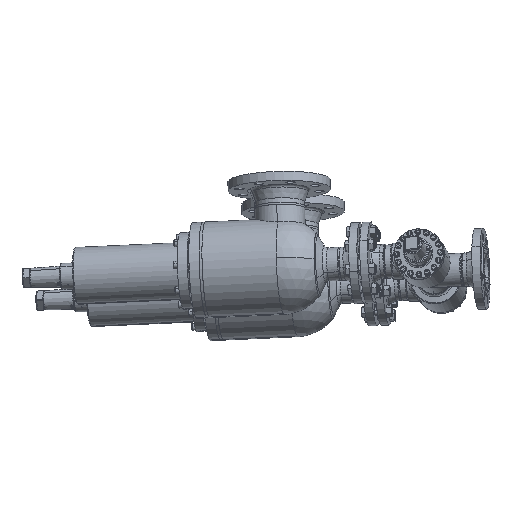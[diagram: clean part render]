
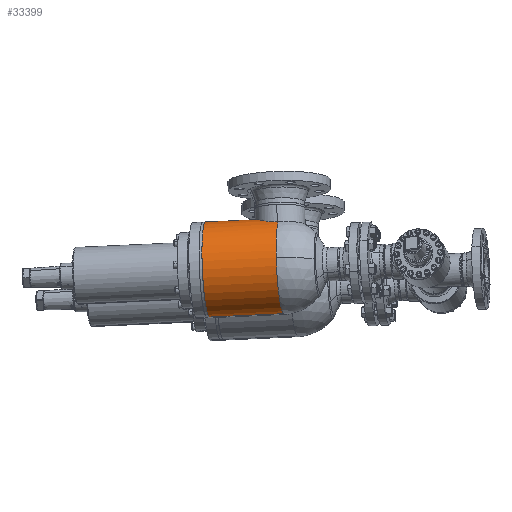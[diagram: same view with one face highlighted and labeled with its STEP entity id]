
A CAD part, top view. The second image highlights one B-rep face of the part: STEP entity #33399.
In plain terms, the highlighted cylindrical face has radius 109.55 mm (diameter 219.1 mm), a partial arc.
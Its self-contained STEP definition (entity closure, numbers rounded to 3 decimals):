
#33399 = ADVANCED_FACE ( 'NONE', ( #20507 ), #20508, .T. ) ;
#50564 = VERTEX_POINT ( 'NONE', #4089 ) ;
#51237 = EDGE_CURVE ( 'NONE', #50564, #53919, #4771, .T. ) ;
#51618 = CARTESIAN_POINT ( 'NONE',  ( 0., -201., 109.55 ) ) ;
#4089 = CARTESIAN_POINT ( 'NONE',  ( 53.963, -201., -95.337 ) ) ;
#20507 = FACE_OUTER_BOUND ( 'NONE', #32668, .T. ) ;
#20508 = CYLINDRICAL_SURFACE ( 'NONE', #20509, 109.55 ) ;
#20509 = AXIS2_PLACEMENT_3D ( 'NONE', #20510, #20511, #20512 ) ;
#20510 = CARTESIAN_POINT ( 'NONE',  ( 0., 0., 0. ) ) ;
#20511 = DIRECTION ( 'NONE',  ( 0., 1., 0. ) ) ;
#20512 = DIRECTION ( 'NONE',  ( 0., 0., 1. ) ) ;
#21102 = VERTEX_POINT ( 'NONE', #7632 ) ;
#53919 = VERTEX_POINT ( 'NONE', #11273 ) ;
#4771 = B_SPLINE_CURVE_WITH_KNOTS ( 'NONE', 3,
 ( #4772, #4773, #4774, #4775, #4776 ),
 .UNSPECIFIED., .F., .F.,
 ( 4, 1, 4 ),
 ( 0.255, 0.256, 0.257 ),
 .UNSPECIFIED. ) ;
#4772 = CARTESIAN_POINT ( 'NONE',  ( 53.963, -201., -95.337 ) ) ;
#4773 = CARTESIAN_POINT ( 'NONE',  ( 53.975, -200.667, -95.33 ) ) ;
#4774 = CARTESIAN_POINT ( 'NONE',  ( 53.994, -200., -95.32 ) ) ;
#4775 = CARTESIAN_POINT ( 'NONE',  ( 54., -199.333, -95.316 ) ) ;
#4776 = CARTESIAN_POINT ( 'NONE',  ( 54., -199., -95.316 ) ) ;
#54244 = LINE ( 'NONE', #54245, #54246 ) ;
#54245 = CARTESIAN_POINT ( 'NONE',  ( 0., 0., 109.55 ) ) ;
#54246 = VECTOR ( 'NONE', #54247, 1000. ) ;
#54247 = DIRECTION ( 'NONE',  ( 0., 1., 0. ) ) ;
#21769 = EDGE_CURVE ( 'NONE', #21102, #23983, #9167, .T. ) ;
#22114 = CARTESIAN_POINT ( 'NONE',  ( 0., -30.125, -109.55 ) ) ;
#22851 = ORIENTED_EDGE ( 'NONE', *, *, #21769, .F. ) ;
#23349 = LINE ( 'NONE', #23350, #23351 ) ;
#23350 = CARTESIAN_POINT ( 'NONE',  ( 0., 0., -109.55 ) ) ;
#23351 = VECTOR ( 'NONE', #23352, 1000. ) ;
#23352 = DIRECTION ( 'NONE',  ( 0., 1., 0. ) ) ;
#23983 = VERTEX_POINT ( 'NONE', #22114 ) ;
#7632 = CARTESIAN_POINT ( 'NONE',  ( 0., -30.125, 109.55 ) ) ;
#24568 = EDGE_CURVE ( 'NONE', #27251, #23983, #23349, .T. ) ;
#41511 = ORIENTED_EDGE ( 'NONE', *, *, #9989, .T. ) ;
#9167 = CIRCLE ( 'NONE', #9168, 109.55 ) ;
#9168 = AXIS2_PLACEMENT_3D ( 'NONE', #9169, #9170, #9171 ) ;
#9169 = CARTESIAN_POINT ( 'NONE',  ( 0., -30.125, 0. ) ) ;
#9170 = DIRECTION ( 'NONE',  ( 0., 1., 0. ) ) ;
#9171 = DIRECTION ( 'NONE',  ( 0., 0., 1. ) ) ;
#25687 = ORIENTED_EDGE ( 'NONE', *, *, #24568, .T. ) ;
#9319 = VERTEX_POINT ( 'NONE', #44709 ) ;
#9989 = EDGE_CURVE ( 'NONE', #9319, #50564, #46161, .T. ) ;
#43086 = EDGE_CURVE ( 'NONE', #45753, #9319, #46752, .T. ) ;
#27251 = VERTEX_POINT ( 'NONE', #27898 ) ;
#11273 = CARTESIAN_POINT ( 'NONE',  ( 54., -199., -95.316 ) ) ;
#44192 = ORIENTED_EDGE ( 'NONE', *, *, #43086, .T. ) ;
#27898 = CARTESIAN_POINT ( 'NONE',  ( 0., -145., -109.55 ) ) ;
#27927 = EDGE_CURVE ( 'NONE', #53919, #27251, #28625, .T. ) ;
#44709 = CARTESIAN_POINT ( 'NONE',  ( 109.55, -201., 0. ) ) ;
#28625 = B_SPLINE_CURVE_WITH_KNOTS ( 'NONE', 3,
 ( #28626, #28627, #28628, #28629, #28630, #28631, #28632, #28633, #28634, #28677, #28678, #28679, #28680, #28681, #28682, #28683, #28684, #28685, #28686, #28687, #28688, #28689, #28690, #28691, #28692, #28731, #28732, #28733, #28734, #28735, #28736, #28737, #28738, #28739, #28740, #28741, #28742, #28743 ),
 .UNSPECIFIED., .F., .F.,
 ( 4, 2, 2, 2, 2, 2, 2, 2, 2, 2, 2, 2, 2, 2, 2, 2, 2, 2, 4 ),
 ( 0.257, 0.263, 0.265, 0.268, 0.279, 0.284, 0.29, 0.295, 0.298, 0.3, 0.311, 0.316, 0.319, 0.322, 0.332, 0.335, 0.338, 0.34, 0.343 ),
 .UNSPECIFIED. ) ;
#28626 = CARTESIAN_POINT ( 'NONE',  ( 54., -199., -95.316 ) ) ;
#28627 = CARTESIAN_POINT ( 'NONE',  ( 54., -197.216, -95.316 ) ) ;
#28628 = CARTESIAN_POINT ( 'NONE',  ( 53.912, -195.431, -95.366 ) ) ;
#28629 = CARTESIAN_POINT ( 'NONE',  ( 53.645, -192.752, -95.517 ) ) ;
#28630 = CARTESIAN_POINT ( 'NONE',  ( 53.533, -191.859, -95.579 ) ) ;
#28631 = CARTESIAN_POINT ( 'NONE',  ( 53.264, -190.072, -95.729 ) ) ;
#28632 = CARTESIAN_POINT ( 'NONE',  ( 53.108, -189.184, -95.816 ) ) ;
#28633 = CARTESIAN_POINT ( 'NONE',  ( 52.221, -184.795, -96.306 ) ) ;
#28634 = CARTESIAN_POINT ( 'NONE',  ( 51.178, -181.414, -96.873 ) ) ;
#28677 = CARTESIAN_POINT ( 'NONE',  ( 49.132, -176.523, -97.918 ) ) ;
#28678 = CARTESIAN_POINT ( 'NONE',  ( 48.365, -174.918, -98.3 ) ) ;
#28679 = CARTESIAN_POINT ( 'NONE',  ( 46.698, -171.827, -99.103 ) ) ;
#28680 = CARTESIAN_POINT ( 'NONE',  ( 45.796, -170.334, -99.524 ) ) ;
#28681 = CARTESIAN_POINT ( 'NONE',  ( 43.857, -167.448, -100.394 ) ) ;
#28682 = CARTESIAN_POINT ( 'NONE',  ( 42.821, -166.054, -100.842 ) ) ;
#28683 = CARTESIAN_POINT ( 'NONE',  ( 41.163, -164.038, -101.524 ) ) ;
#28684 = CARTESIAN_POINT ( 'NONE',  ( 40.593, -163.377, -101.754 ) ) ;
#28685 = CARTESIAN_POINT ( 'NONE',  ( 39.418, -162.082, -102.214 ) ) ;
#28686 = CARTESIAN_POINT ( 'NONE',  ( 38.814, -161.447, -102.446 ) ) ;
#28687 = CARTESIAN_POINT ( 'NONE',  ( 35.733, -158.364, -103.592 ) ) ;
#28688 = CARTESIAN_POINT ( 'NONE',  ( 33.06, -156.161, -104.486 ) ) ;
#28689 = CARTESIAN_POINT ( 'NONE',  ( 28.728, -153.243, -105.727 ) ) ;
#28690 = CARTESIAN_POINT ( 'NONE',  ( 27.23, -152.335, -106.124 ) ) ;
#28691 = CARTESIAN_POINT ( 'NONE',  ( 24.896, -151.073, -106.687 ) ) ;
#28692 = CARTESIAN_POINT ( 'NONE',  ( 24.103, -150.67, -106.869 ) ) ;
#28731 = CARTESIAN_POINT ( 'NONE',  ( 22.507, -149.906, -107.216 ) ) ;
#28732 = CARTESIAN_POINT ( 'NONE',  ( 21.701, -149.545, -107.382 ) ) ;
#28733 = CARTESIAN_POINT ( 'NONE',  ( 17.636, -147.839, -108.172 ) ) ;
#28734 = CARTESIAN_POINT ( 'NONE',  ( 14.264, -146.796, -108.674 ) ) ;
#28735 = CARTESIAN_POINT ( 'NONE',  ( 9.89, -145.906, -109.106 ) ) ;
#28736 = CARTESIAN_POINT ( 'NONE',  ( 9.007, -145.749, -109.183 ) ) ;
#28737 = CARTESIAN_POINT ( 'NONE',  ( 7.226, -145.478, -109.315 ) ) ;
#28738 = CARTESIAN_POINT ( 'NONE',  ( 6.325, -145.364, -109.371 ) ) ;
#28739 = CARTESIAN_POINT ( 'NONE',  ( 4.524, -145.182, -109.46 ) ) ;
#28740 = CARTESIAN_POINT ( 'NONE',  ( 3.622, -145.114, -109.494 ) ) ;
#28741 = CARTESIAN_POINT ( 'NONE',  ( 1.814, -145.023, -109.539 ) ) ;
#28742 = CARTESIAN_POINT ( 'NONE',  ( 0.906, -145., -109.55 ) ) ;
#28743 = CARTESIAN_POINT ( 'NONE',  ( 0., -145., -109.55 ) ) ;
#29036 = ORIENTED_EDGE ( 'NONE', *, *, #27927, .T. ) ;
#45753 = VERTEX_POINT ( 'NONE', #51618 ) ;
#46161 = CIRCLE ( 'NONE', #46162, 109.55 ) ;
#46162 = AXIS2_PLACEMENT_3D ( 'NONE', #46163, #46164, #46165 ) ;
#46163 = CARTESIAN_POINT ( 'NONE',  ( 0., -201., 0. ) ) ;
#46164 = DIRECTION ( 'NONE',  ( 0., 1., 0. ) ) ;
#46165 = DIRECTION ( 'NONE',  ( 0., 0., 1. ) ) ;
#46439 = EDGE_CURVE ( 'NONE', #45753, #21102, #54244, .T. ) ;
#46752 = CIRCLE ( 'NONE', #46753, 109.55 ) ;
#46753 = AXIS2_PLACEMENT_3D ( 'NONE', #46754, #46755, #46756 ) ;
#46754 = CARTESIAN_POINT ( 'NONE',  ( 0., -201., 0. ) ) ;
#46755 = DIRECTION ( 'NONE',  ( 0., 1., 0. ) ) ;
#46756 = DIRECTION ( 'NONE',  ( 0., 0., 1. ) ) ;
#30606 = ORIENTED_EDGE ( 'NONE', *, *, #51237, .T. ) ;
#47555 = ORIENTED_EDGE ( 'NONE', *, *, #46439, .F. ) ;
#32668 = EDGE_LOOP ( 'NONE', ( #30606, #29036, #25687, #22851, #47555, #44192, #41511 ) ) ;
